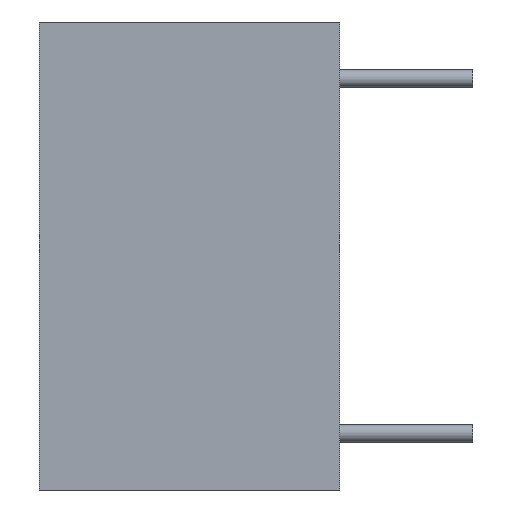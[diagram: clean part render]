
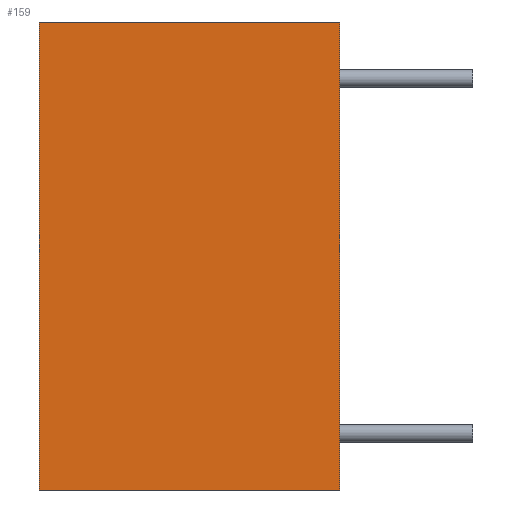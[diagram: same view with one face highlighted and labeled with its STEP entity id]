
A CAD part, left-side view. The second image highlights one B-rep face of the part: STEP entity #159.
In plain terms, the highlighted planar face has unit normal (-1, 0, 0).
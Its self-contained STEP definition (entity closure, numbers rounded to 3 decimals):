
#10 = CARTESIAN_POINT ( 'NONE',  ( -11.9, 8.6, -6.7 ) ) ;
#34 = CARTESIAN_POINT ( 'NONE',  ( -11.9, 0., -6.7 ) ) ;
#72 = EDGE_CURVE ( 'NONE', #90, #492, #328, .T. ) ;
#76 = LINE ( 'NONE', #787, #378 ) ;
#90 = VERTEX_POINT ( 'NONE', #661 ) ;
#159 = ADVANCED_FACE ( 'NONE', ( #372 ), #435, .F. ) ;
#170 = CARTESIAN_POINT ( 'NONE',  ( -11.9, 0., -6.7 ) ) ;
#272 = EDGE_CURVE ( 'NONE', #767, #492, #554, .T. ) ;
#305 = AXIS2_PLACEMENT_3D ( 'NONE', #505, #628, #365 ) ;
#323 = EDGE_LOOP ( 'NONE', ( #589, #345, #442, #780 ) ) ;
#327 = CARTESIAN_POINT ( 'NONE',  ( -11.9, 8.6, -6.7 ) ) ;
#328 = LINE ( 'NONE', #804, #551 ) ;
#345 = ORIENTED_EDGE ( 'NONE', *, *, #72, .F. ) ;
#365 = DIRECTION ( 'NONE',  ( 0., 0., -1. ) ) ;
#372 = FACE_OUTER_BOUND ( 'NONE', #323, .T. ) ;
#378 = VECTOR ( 'NONE', #791, 1000. ) ;
#420 = VECTOR ( 'NONE', #812, 1000. ) ;
#435 = PLANE ( 'NONE',  #305 ) ;
#442 = ORIENTED_EDGE ( 'NONE', *, *, #588, .F. ) ;
#484 = DIRECTION ( 'NONE',  ( 0., 0., 1. ) ) ;
#492 = VERTEX_POINT ( 'NONE', #585 ) ;
#505 = CARTESIAN_POINT ( 'NONE',  ( -11.9, 8.6, -6.7 ) ) ;
#551 = VECTOR ( 'NONE', #808, 1000. ) ;
#554 = LINE ( 'NONE', #170, #420 ) ;
#585 = CARTESIAN_POINT ( 'NONE',  ( -11.9, 0., 6.7 ) ) ;
#588 = EDGE_CURVE ( 'NONE', #654, #90, #609, .T. ) ;
#589 = ORIENTED_EDGE ( 'NONE', *, *, #272, .T. ) ;
#609 = LINE ( 'NONE', #10, #814 ) ;
#618 = EDGE_CURVE ( 'NONE', #654, #767, #76, .T. ) ;
#628 = DIRECTION ( 'NONE',  ( 1., 0., 0. ) ) ;
#654 = VERTEX_POINT ( 'NONE', #327 ) ;
#661 = CARTESIAN_POINT ( 'NONE',  ( -11.9, 8.6, 6.7 ) ) ;
#767 = VERTEX_POINT ( 'NONE', #34 ) ;
#780 = ORIENTED_EDGE ( 'NONE', *, *, #618, .T. ) ;
#787 = CARTESIAN_POINT ( 'NONE',  ( -11.9, 8.6, -6.7 ) ) ;
#791 = DIRECTION ( 'NONE',  ( 0., -1., 0. ) ) ;
#804 = CARTESIAN_POINT ( 'NONE',  ( -11.9, 8.6, 6.7 ) ) ;
#808 = DIRECTION ( 'NONE',  ( 0., -1., 0. ) ) ;
#812 = DIRECTION ( 'NONE',  ( 0., 0., 1. ) ) ;
#814 = VECTOR ( 'NONE', #484, 1000. ) ;
